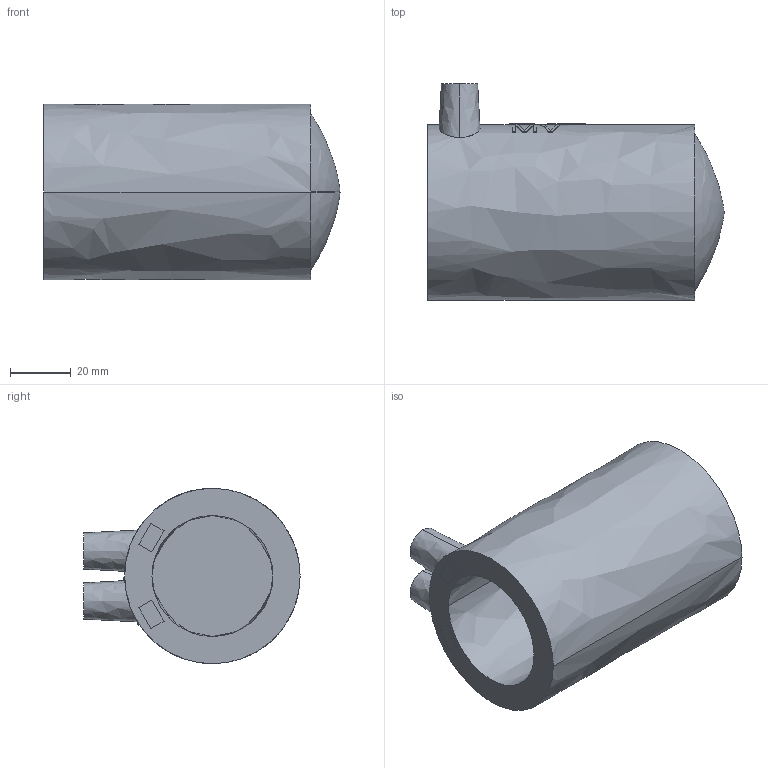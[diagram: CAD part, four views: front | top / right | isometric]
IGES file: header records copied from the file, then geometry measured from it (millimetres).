
Start section:  PTC IGES file: mv_d40.igs
Global section: file name: mv_d40.igs; native system: Pro/ENGINEER by Parametric Technology Corporation; preprocessor: 2006200; author: muellerc; organization: Unknown; date: 20061011.092837; units: millimetre
Bounding box: 98 x 71.5 x 58 mm (x, y, z)
Surface area: 28988.3 mm2 (no closed solid volume)
Topology: 0 solids, 0 shells, 63 faces, 310 edges, 308 vertices
Faces by surface type: bspline 63
